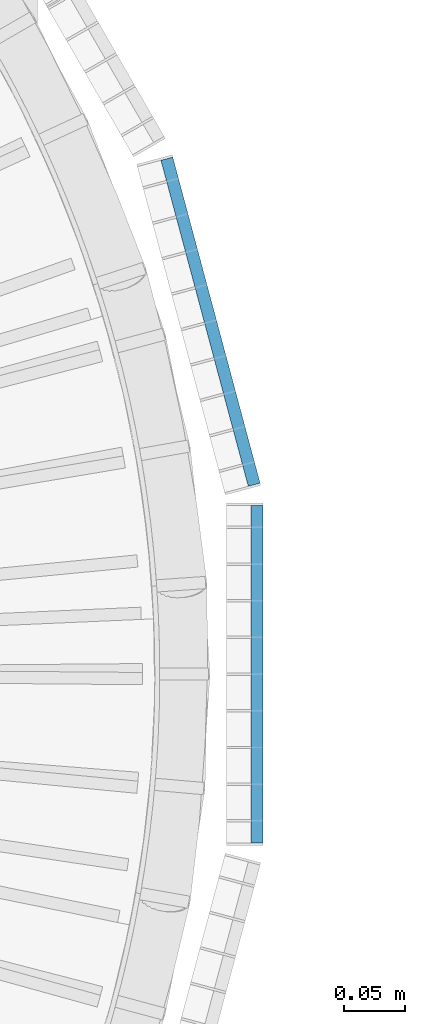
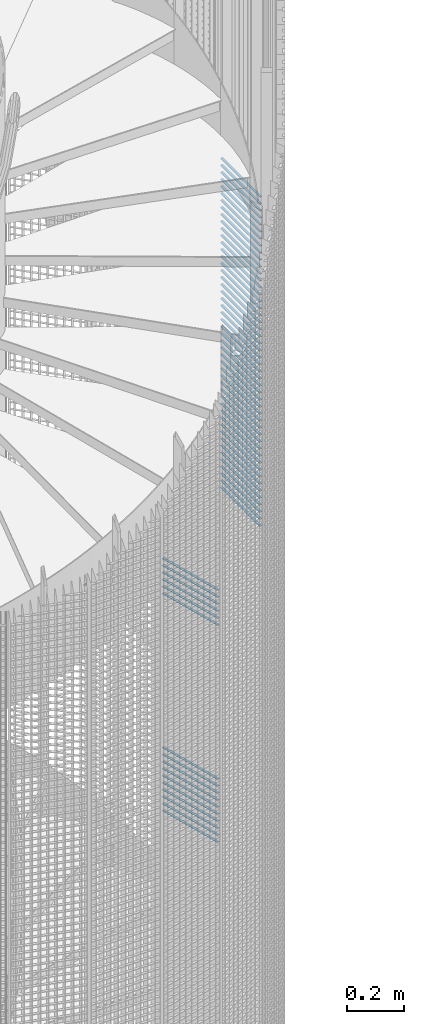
# One storey, part 302 of 1183: 64 beams, 2 elements without a shape of their own.
"""IFC2X3 building model written with IfcOpenShell, lengths in millimetres."""

from ifc_helpers import new_model, si_unit, frame, origin_with_axes, origin_2d_with_axis, place, context, subcontext, project, spatial, rectangle, extrude, material, type_object, element, aggregate, save


model = new_model("IFC2X3")

# Units and contexts
model_context = context("Model", 3, precision=1e-05, world=origin_with_axes())
body_context = subcontext(model_context, "Body", "Model", "MODEL_VIEW")
ifc_project = project(units=[si_unit("LENGTHUNIT", "METRE", prefix="MILLI"), si_unit("AREAUNIT", "SQUARE_METRE"), si_unit("VOLUMEUNIT", "CUBIC_METRE"), si_unit("MASSUNIT", "GRAM", prefix="KILO"), si_unit("TIMEUNIT", "SECOND"), si_unit("PLANEANGLEUNIT", "RADIAN"), si_unit("SOLIDANGLEUNIT", "STERADIAN"), si_unit("THERMODYNAMICTEMPERATUREUNIT", "DEGREE_CELSIUS"), si_unit("LUMINOUSINTENSITYUNIT", "LUMEN")], contexts=[model_context])

# Site, building, storey
site_placement = place(None, origin_with_axes())
site = spatial("IfcSite", under=ifc_project, at=site_placement, Name="Undefined", CompositionType="ELEMENT")
building_placement = place(site_placement, origin_with_axes())
building = spatial("IfcBuilding", under=site, at=building_placement, Name="Undefined", CompositionType="ELEMENT")
storey_placement = place(building_placement, origin_with_axes())
storey = spatial("IfcBuildingStorey", under=building, at=storey_placement, Name="Undefined", CompositionType="ELEMENT", Elevation=0.0)

# Assembly, beams
assembly_1_placement = place(storey_placement, origin_with_axes())
assembly_1 = element("IfcElementAssembly", 1, at=assembly_1_placement, inside=storey, Name="BORDURE", AssemblyPlace="NOTDEFINED", PredefinedType="NOTDEFINED")
ifc_material = material(Name="STEEL/S235JR")
beam_type = type_object("IfcBeamType", Name="PL2*10", PredefinedType="NOTDEFINED")
beam_1_placement = place(assembly_1_placement, frame((1111.25508286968, 154.895926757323, 3960.0), z_axis=(0.965925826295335, 0.258819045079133, 0.0), x_axis=(-0.258819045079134, 0.965925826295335, 0.0)))
beam_1 = element("IfcBeam", 2, at=beam_1_placement, type_object=beam_type, material=ifc_material, Name="ENTRETOISE", context=body_context, shape_type="SweptSolid", body=[
    extrude(rectangle(XDim=2.0, YDim=10.0, at=origin_2d_with_axis()), frame((275.999999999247, 9.09494701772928e-13, 1.53210777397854e-14), z_axis=(-1.0, 0.0, 0.0), x_axis=(0.0, -1.0, 0.0)), (0.0, 0.0, 1.0), 276.0),
])
beam_2_placement = place(assembly_1_placement, frame((1111.25508286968, 154.895926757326, 3300.0), z_axis=(0.965925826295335, 0.258819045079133, 0.0), x_axis=(-0.258819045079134, 0.965925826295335, 0.0)))
beam_2 = element("IfcBeam", 3, at=beam_2_placement, type_object=beam_type, material=ifc_material, Name="ENTRETOISE", context=body_context, shape_type="SweptSolid", body=[
    extrude(rectangle(XDim=2.0, YDim=10.0, at=origin_2d_with_axis()), frame((275.999999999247, 9.09494701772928e-13, 1.53210777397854e-14), z_axis=(-1.0, 0.0, 0.0), x_axis=(0.0, -1.0, 0.0)), (0.0, 0.0, 1.0), 276.0),
])
beam_3_placement = place(assembly_1_placement, frame((1111.25508286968, 154.895926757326, 3270.0), z_axis=(0.965925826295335, 0.258819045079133, 0.0), x_axis=(-0.258819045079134, 0.965925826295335, 0.0)))
beam_3 = element("IfcBeam", 4, at=beam_3_placement, type_object=beam_type, material=ifc_material, Name="ENTRETOISE", context=body_context, shape_type="SweptSolid", body=[
    extrude(rectangle(XDim=2.0, YDim=10.0, at=origin_2d_with_axis()), frame((275.999999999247, 9.09494701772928e-13, 1.53210777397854e-14), z_axis=(-1.0, 0.0, 0.0), x_axis=(0.0, -1.0, 0.0)), (0.0, 0.0, 1.0), 276.0),
])
beam_4_placement = place(assembly_1_placement, frame((1111.25508286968, 154.895926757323, 3990.0), z_axis=(0.965925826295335, 0.258819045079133, 0.0), x_axis=(-0.258819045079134, 0.965925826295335, 0.0)))
beam_4 = element("IfcBeam", 5, at=beam_4_placement, type_object=beam_type, material=ifc_material, Name="ENTRETOISE", context=body_context, shape_type="SweptSolid", body=[
    extrude(rectangle(XDim=2.0, YDim=10.0, at=origin_2d_with_axis()), frame((275.999999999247, 9.09494701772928e-13, 1.53210777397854e-14), z_axis=(-1.0, 0.0, 0.0), x_axis=(0.0, -1.0, 0.0)), (0.0, 0.0, 1.0), 276.0),
])
beam_5_placement = place(assembly_1_placement, frame((1111.25508286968, 154.895926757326, 3240.0), z_axis=(0.965925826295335, 0.258819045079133, 0.0), x_axis=(-0.258819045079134, 0.965925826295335, 0.0)))
beam_5 = element("IfcBeam", 6, at=beam_5_placement, type_object=beam_type, material=ifc_material, Name="ENTRETOISE", context=body_context, shape_type="SweptSolid", body=[
    extrude(rectangle(XDim=2.0, YDim=10.0, at=origin_2d_with_axis()), frame((275.999999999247, 9.09494701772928e-13, 1.53210777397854e-14), z_axis=(-1.0, 0.0, 0.0), x_axis=(0.0, -1.0, 0.0)), (0.0, 0.0, 1.0), 276.0),
])
beam_6_placement = place(assembly_1_placement, frame((1111.25508286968, 154.895926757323, 4020.0), z_axis=(0.965925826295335, 0.258819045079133, 0.0), x_axis=(-0.258819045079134, 0.965925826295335, 0.0)))
beam_6 = element("IfcBeam", 7, at=beam_6_placement, type_object=beam_type, material=ifc_material, Name="ENTRETOISE", context=body_context, shape_type="SweptSolid", body=[
    extrude(rectangle(XDim=2.0, YDim=10.0, at=origin_2d_with_axis()), frame((275.999999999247, 9.09494701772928e-13, 1.53210777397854e-14), z_axis=(-1.0, 0.0, 0.0), x_axis=(0.0, -1.0, 0.0)), (0.0, 0.0, 1.0), 276.0),
])
beam_7_placement = place(assembly_1_placement, frame((1111.25508286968, 154.895926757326, 3210.0), z_axis=(0.965925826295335, 0.258819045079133, 0.0), x_axis=(-0.258819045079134, 0.965925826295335, 0.0)))
beam_7 = element("IfcBeam", 8, at=beam_7_placement, type_object=beam_type, material=ifc_material, Name="ENTRETOISE", context=body_context, shape_type="SweptSolid", body=[
    extrude(rectangle(XDim=2.0, YDim=10.0, at=origin_2d_with_axis()), frame((275.999999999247, 9.09494701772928e-13, 1.53210777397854e-14), z_axis=(-1.0, 0.0, 0.0), x_axis=(0.0, -1.0, 0.0)), (0.0, 0.0, 1.0), 276.0),
])
beam_8_placement = place(assembly_1_placement, frame((1111.25508286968, 154.895926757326, 3180.0), z_axis=(0.965925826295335, 0.258819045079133, 0.0), x_axis=(-0.258819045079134, 0.965925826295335, 0.0)))
beam_8 = element("IfcBeam", 9, at=beam_8_placement, type_object=beam_type, material=ifc_material, Name="ENTRETOISE", context=body_context, shape_type="SweptSolid", body=[
    extrude(rectangle(XDim=2.0, YDim=10.0, at=origin_2d_with_axis()), frame((275.999999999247, 9.09494701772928e-13, 1.53210777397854e-14), z_axis=(-1.0, 0.0, 0.0), x_axis=(0.0, -1.0, 0.0)), (0.0, 0.0, 1.0), 276.0),
])
beam_9_placement = place(assembly_1_placement, frame((1111.25508286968, 154.895926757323, 4050.0), z_axis=(0.965925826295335, 0.258819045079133, 0.0), x_axis=(-0.258819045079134, 0.965925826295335, 0.0)))
beam_9 = element("IfcBeam", 10, at=beam_9_placement, type_object=beam_type, material=ifc_material, Name="ENTRETOISE", context=body_context, shape_type="SweptSolid", body=[
    extrude(rectangle(XDim=2.0, YDim=10.0, at=origin_2d_with_axis()), frame((275.999999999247, 9.09494701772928e-13, 1.53210777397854e-14), z_axis=(-1.0, 0.0, 0.0), x_axis=(0.0, -1.0, 0.0)), (0.0, 0.0, 1.0), 276.0),
])
beam_10_placement = place(assembly_1_placement, frame((1111.25508286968, 154.895926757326, 3150.0), z_axis=(0.965925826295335, 0.258819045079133, 0.0), x_axis=(-0.258819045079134, 0.965925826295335, 0.0)))
beam_10 = element("IfcBeam", 11, at=beam_10_placement, type_object=beam_type, material=ifc_material, Name="ENTRETOISE", context=body_context, shape_type="SweptSolid", body=[
    extrude(rectangle(XDim=2.0, YDim=10.0, at=origin_2d_with_axis()), frame((275.999999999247, 9.09494701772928e-13, 1.53210777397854e-14), z_axis=(-1.0, 0.0, 0.0), x_axis=(0.0, -1.0, 0.0)), (0.0, 0.0, 1.0), 276.0),
])
beam_11_placement = place(assembly_1_placement, frame((1111.25508286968, 154.895926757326, 3120.0), z_axis=(0.965925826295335, 0.258819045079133, 0.0), x_axis=(-0.258819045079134, 0.965925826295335, 0.0)))
beam_11 = element("IfcBeam", 12, at=beam_11_placement, type_object=beam_type, material=ifc_material, Name="ENTRETOISE", context=body_context, shape_type="SweptSolid", body=[
    extrude(rectangle(XDim=2.0, YDim=10.0, at=origin_2d_with_axis()), frame((275.999999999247, 9.09494701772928e-13, 1.53210777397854e-14), z_axis=(-1.0, 0.0, 0.0), x_axis=(0.0, -1.0, 0.0)), (0.0, 0.0, 1.0), 276.0),
])
beam_12_placement = place(assembly_1_placement, frame((1111.25508286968, 154.895926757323, 4080.0), z_axis=(0.965925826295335, 0.258819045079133, 0.0), x_axis=(-0.258819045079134, 0.965925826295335, 0.0)))
beam_12 = element("IfcBeam", 13, at=beam_12_placement, type_object=beam_type, material=ifc_material, Name="ENTRETOISE", context=body_context, shape_type="SweptSolid", body=[
    extrude(rectangle(XDim=2.0, YDim=10.0, at=origin_2d_with_axis()), frame((275.999999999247, 9.09494701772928e-13, 1.53210777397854e-14), z_axis=(-1.0, 0.0, 0.0), x_axis=(0.0, -1.0, 0.0)), (0.0, 0.0, 1.0), 276.0),
])
beam_13_placement = place(assembly_1_placement, frame((1111.25508286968, 154.895926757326, 3090.0), z_axis=(0.965925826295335, 0.258819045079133, 0.0), x_axis=(-0.258819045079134, 0.965925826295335, 0.0)))
beam_13 = element("IfcBeam", 14, at=beam_13_placement, type_object=beam_type, material=ifc_material, Name="ENTRETOISE", context=body_context, shape_type="SweptSolid", body=[
    extrude(rectangle(XDim=2.0, YDim=10.0, at=origin_2d_with_axis()), frame((275.999999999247, 9.09494701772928e-13, 1.53210777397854e-14), z_axis=(-1.0, 0.0, 0.0), x_axis=(0.0, -1.0, 0.0)), (0.0, 0.0, 1.0), 276.0),
])
beam_14_placement = place(assembly_1_placement, frame((1111.25508286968, 154.895926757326, 3060.0), z_axis=(0.965925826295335, 0.258819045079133, 0.0), x_axis=(-0.258819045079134, 0.965925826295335, 0.0)))
beam_14 = element("IfcBeam", 15, at=beam_14_placement, type_object=beam_type, material=ifc_material, Name="ENTRETOISE", context=body_context, shape_type="SweptSolid", body=[
    extrude(rectangle(XDim=2.0, YDim=10.0, at=origin_2d_with_axis()), frame((275.999999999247, 9.09494701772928e-13, 1.53210777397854e-14), z_axis=(-1.0, 0.0, 0.0), x_axis=(0.0, -1.0, 0.0)), (0.0, 0.0, 1.0), 276.0),
])
beam_15_placement = place(assembly_1_placement, frame((1111.25508286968, 154.895926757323, 4110.0), z_axis=(0.965925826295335, 0.258819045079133, 0.0), x_axis=(-0.258819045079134, 0.965925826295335, 0.0)))
beam_15 = element("IfcBeam", 16, at=beam_15_placement, type_object=beam_type, material=ifc_material, Name="ENTRETOISE", context=body_context, shape_type="SweptSolid", body=[
    extrude(rectangle(XDim=2.0, YDim=10.0, at=origin_2d_with_axis()), frame((275.999999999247, 9.09494701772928e-13, 1.53210777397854e-14), z_axis=(-1.0, 0.0, 0.0), x_axis=(0.0, -1.0, 0.0)), (0.0, 0.0, 1.0), 276.0),
])
beam_16_placement = place(assembly_1_placement, frame((1111.25508286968, 154.895926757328, 3030.0), z_axis=(0.965925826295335, 0.258819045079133, 0.0), x_axis=(-0.258819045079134, 0.965925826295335, 0.0)))
beam_16 = element("IfcBeam", 17, at=beam_16_placement, type_object=beam_type, material=ifc_material, Name="ENTRETOISE", context=body_context, shape_type="SweptSolid", body=[
    extrude(rectangle(XDim=2.0, YDim=10.0, at=origin_2d_with_axis()), frame((275.999999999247, 9.09494701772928e-13, 1.53210777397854e-14), z_axis=(-1.0, 0.0, 0.0), x_axis=(0.0, -1.0, 0.0)), (0.0, 0.0, 1.0), 276.0),
])
aggregate(assembly_1, [beam_1, beam_2, beam_3, beam_4, beam_5, beam_6, beam_7, beam_8, beam_9, beam_10, beam_11, beam_12, beam_13, beam_14, beam_15, beam_16])

assembly_2_placement = place(storey_placement, origin_with_axes())
assembly_2 = element("IfcElementAssembly", 18, at=assembly_2_placement, inside=storey, Name="BORDURE", AssemblyPlace="NOTDEFINED", PredefinedType="NOTDEFINED")
beam_17_placement = place(assembly_2_placement, frame((1113.47999999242, -137.996003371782, 5970.0), z_axis=(1.0, 0.0, 0.0), x_axis=(0.0, 1.0, 0.0)))
beam_17 = element("IfcBeam", 19, at=beam_17_placement, type_object=beam_type, material=ifc_material, Name="ENTRETOISE", context=body_context, shape_type="SweptSolid", body=[
    extrude(rectangle(XDim=2.0, YDim=10.0, at=origin_2d_with_axis()), frame((275.999999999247, 9.09494701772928e-13, 1.53210777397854e-14), z_axis=(-1.0, 0.0, 0.0), x_axis=(0.0, -1.0, 0.0)), (0.0, 0.0, 1.0), 276.0),
])
beam_18_placement = place(assembly_2_placement, frame((1113.47999999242, -137.996003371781, 5940.0), z_axis=(1.0, 0.0, 0.0), x_axis=(0.0, 1.0, 0.0)))
beam_18 = element("IfcBeam", 20, at=beam_18_placement, type_object=beam_type, material=ifc_material, Name="ENTRETOISE", context=body_context, shape_type="SweptSolid", body=[
    extrude(rectangle(XDim=2.0, YDim=10.0, at=origin_2d_with_axis()), frame((275.999999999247, 9.09494701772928e-13, 1.53210777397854e-14), z_axis=(-1.0, 0.0, 0.0), x_axis=(0.0, -1.0, 0.0)), (0.0, 0.0, 1.0), 276.0),
])
beam_19_placement = place(assembly_2_placement, frame((1113.47999999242, -137.996003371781, 5910.0), z_axis=(1.0, 0.0, 0.0), x_axis=(0.0, 1.0, 0.0)))
beam_19 = element("IfcBeam", 21, at=beam_19_placement, type_object=beam_type, material=ifc_material, Name="ENTRETOISE", context=body_context, shape_type="SweptSolid", body=[
    extrude(rectangle(XDim=2.0, YDim=10.0, at=origin_2d_with_axis()), frame((275.999999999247, 9.09494701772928e-13, 1.53210777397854e-14), z_axis=(-1.0, 0.0, 0.0), x_axis=(0.0, -1.0, 0.0)), (0.0, 0.0, 1.0), 276.0),
])
beam_20_placement = place(assembly_2_placement, frame((1113.47999999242, -137.996003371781, 5880.0), z_axis=(1.0, 0.0, 0.0), x_axis=(0.0, 1.0, 0.0)))
beam_20 = element("IfcBeam", 22, at=beam_20_placement, type_object=beam_type, material=ifc_material, Name="ENTRETOISE", context=body_context, shape_type="SweptSolid", body=[
    extrude(rectangle(XDim=2.0, YDim=10.0, at=origin_2d_with_axis()), frame((275.999999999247, 9.09494701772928e-13, 1.53210777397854e-14), z_axis=(-1.0, 0.0, 0.0), x_axis=(0.0, -1.0, 0.0)), (0.0, 0.0, 1.0), 276.0),
])
beam_21_placement = place(assembly_2_placement, frame((1113.47999999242, -137.996003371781, 5850.0), z_axis=(1.0, 0.0, 0.0), x_axis=(0.0, 1.0, 0.0)))
beam_21 = element("IfcBeam", 23, at=beam_21_placement, type_object=beam_type, material=ifc_material, Name="ENTRETOISE", context=body_context, shape_type="SweptSolid", body=[
    extrude(rectangle(XDim=2.0, YDim=10.0, at=origin_2d_with_axis()), frame((275.999999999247, 9.09494701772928e-13, 1.53210777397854e-14), z_axis=(-1.0, 0.0, 0.0), x_axis=(0.0, -1.0, 0.0)), (0.0, 0.0, 1.0), 276.0),
])
beam_22_placement = place(assembly_2_placement, frame((1113.47999999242, -137.996003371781, 5820.0), z_axis=(1.0, 0.0, 0.0), x_axis=(0.0, 1.0, 0.0)))
beam_22 = element("IfcBeam", 24, at=beam_22_placement, type_object=beam_type, material=ifc_material, Name="ENTRETOISE", context=body_context, shape_type="SweptSolid", body=[
    extrude(rectangle(XDim=2.0, YDim=10.0, at=origin_2d_with_axis()), frame((275.999999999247, 9.09494701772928e-13, 1.53210777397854e-14), z_axis=(-1.0, 0.0, 0.0), x_axis=(0.0, -1.0, 0.0)), (0.0, 0.0, 1.0), 276.0),
])
beam_23_placement = place(assembly_2_placement, frame((1113.47999999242, -137.996003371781, 5790.0), z_axis=(1.0, 0.0, 0.0), x_axis=(0.0, 1.0, 0.0)))
beam_23 = element("IfcBeam", 25, at=beam_23_placement, type_object=beam_type, material=ifc_material, Name="ENTRETOISE", context=body_context, shape_type="SweptSolid", body=[
    extrude(rectangle(XDim=2.0, YDim=10.0, at=origin_2d_with_axis()), frame((275.999999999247, 9.09494701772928e-13, 1.53210777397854e-14), z_axis=(-1.0, 0.0, 0.0), x_axis=(0.0, -1.0, 0.0)), (0.0, 0.0, 1.0), 276.0),
])
beam_24_placement = place(assembly_2_placement, frame((1113.47999999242, -137.996003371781, 5760.0), z_axis=(1.0, 0.0, 0.0), x_axis=(0.0, 1.0, 0.0)))
beam_24 = element("IfcBeam", 26, at=beam_24_placement, type_object=beam_type, material=ifc_material, Name="ENTRETOISE", context=body_context, shape_type="SweptSolid", body=[
    extrude(rectangle(XDim=2.0, YDim=10.0, at=origin_2d_with_axis()), frame((275.999999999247, 9.09494701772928e-13, 1.53210777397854e-14), z_axis=(-1.0, 0.0, 0.0), x_axis=(0.0, -1.0, 0.0)), (0.0, 0.0, 1.0), 276.0),
])
beam_25_placement = place(assembly_2_placement, frame((1113.47999999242, -137.996003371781, 5730.0), z_axis=(1.0, 0.0, 0.0), x_axis=(0.0, 1.0, 0.0)))
beam_25 = element("IfcBeam", 27, at=beam_25_placement, type_object=beam_type, material=ifc_material, Name="ENTRETOISE", context=body_context, shape_type="SweptSolid", body=[
    extrude(rectangle(XDim=2.0, YDim=10.0, at=origin_2d_with_axis()), frame((275.999999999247, 9.09494701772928e-13, 1.53210777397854e-14), z_axis=(-1.0, 0.0, 0.0), x_axis=(0.0, -1.0, 0.0)), (0.0, 0.0, 1.0), 276.0),
])
beam_26_placement = place(assembly_2_placement, frame((1113.47999999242, -137.996003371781, 5700.0), z_axis=(1.0, 0.0, 0.0), x_axis=(0.0, 1.0, 0.0)))
beam_26 = element("IfcBeam", 28, at=beam_26_placement, type_object=beam_type, material=ifc_material, Name="ENTRETOISE", context=body_context, shape_type="SweptSolid", body=[
    extrude(rectangle(XDim=2.0, YDim=10.0, at=origin_2d_with_axis()), frame((275.999999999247, 9.09494701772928e-13, 1.53210777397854e-14), z_axis=(-1.0, 0.0, 0.0), x_axis=(0.0, -1.0, 0.0)), (0.0, 0.0, 1.0), 276.0),
])
beam_27_placement = place(assembly_2_placement, frame((1113.47999999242, -137.996003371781, 5670.0), z_axis=(1.0, 0.0, 0.0), x_axis=(0.0, 1.0, 0.0)))
beam_27 = element("IfcBeam", 29, at=beam_27_placement, type_object=beam_type, material=ifc_material, Name="ENTRETOISE", context=body_context, shape_type="SweptSolid", body=[
    extrude(rectangle(XDim=2.0, YDim=10.0, at=origin_2d_with_axis()), frame((275.999999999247, 9.09494701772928e-13, 1.53210777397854e-14), z_axis=(-1.0, 0.0, 0.0), x_axis=(0.0, -1.0, 0.0)), (0.0, 0.0, 1.0), 276.0),
])
beam_28_placement = place(assembly_2_placement, frame((1113.47999999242, -137.99600337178, 5640.0), z_axis=(1.0, 0.0, 0.0), x_axis=(0.0, 1.0, 0.0)))
beam_28 = element("IfcBeam", 30, at=beam_28_placement, type_object=beam_type, material=ifc_material, Name="ENTRETOISE", context=body_context, shape_type="SweptSolid", body=[
    extrude(rectangle(XDim=2.0, YDim=10.0, at=origin_2d_with_axis()), frame((275.999999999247, 9.09494701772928e-13, 1.53210777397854e-14), z_axis=(-1.0, 0.0, 0.0), x_axis=(0.0, -1.0, 0.0)), (0.0, 0.0, 1.0), 276.0),
])
beam_29_placement = place(assembly_2_placement, frame((1113.47999999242, -137.99600337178, 5610.0), z_axis=(1.0, 0.0, 0.0), x_axis=(0.0, 1.0, 0.0)))
beam_29 = element("IfcBeam", 31, at=beam_29_placement, type_object=beam_type, material=ifc_material, Name="ENTRETOISE", context=body_context, shape_type="SweptSolid", body=[
    extrude(rectangle(XDim=2.0, YDim=10.0, at=origin_2d_with_axis()), frame((275.999999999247, 9.09494701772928e-13, 1.53210777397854e-14), z_axis=(-1.0, 0.0, 0.0), x_axis=(0.0, -1.0, 0.0)), (0.0, 0.0, 1.0), 276.0),
])
beam_30_placement = place(assembly_2_placement, frame((1113.47999999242, -137.99600337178, 5580.0), z_axis=(1.0, 0.0, 0.0), x_axis=(0.0, 1.0, 0.0)))
beam_30 = element("IfcBeam", 32, at=beam_30_placement, type_object=beam_type, material=ifc_material, Name="ENTRETOISE", context=body_context, shape_type="SweptSolid", body=[
    extrude(rectangle(XDim=2.0, YDim=10.0, at=origin_2d_with_axis()), frame((275.999999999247, 9.09494701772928e-13, 1.53210777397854e-14), z_axis=(-1.0, 0.0, 0.0), x_axis=(0.0, -1.0, 0.0)), (0.0, 0.0, 1.0), 276.0),
])
beam_31_placement = place(assembly_2_placement, frame((1113.47999999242, -137.99600337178, 5550.0), z_axis=(1.0, 0.0, 0.0), x_axis=(0.0, 1.0, 0.0)))
beam_31 = element("IfcBeam", 33, at=beam_31_placement, type_object=beam_type, material=ifc_material, Name="ENTRETOISE", context=body_context, shape_type="SweptSolid", body=[
    extrude(rectangle(XDim=2.0, YDim=10.0, at=origin_2d_with_axis()), frame((275.999999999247, 9.09494701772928e-13, 1.53210777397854e-14), z_axis=(-1.0, 0.0, 0.0), x_axis=(0.0, -1.0, 0.0)), (0.0, 0.0, 1.0), 276.0),
])
beam_32_placement = place(assembly_2_placement, frame((1113.47999999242, -137.99600337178, 5520.0), z_axis=(1.0, 0.0, 0.0), x_axis=(0.0, 1.0, 0.0)))
beam_32 = element("IfcBeam", 34, at=beam_32_placement, type_object=beam_type, material=ifc_material, Name="ENTRETOISE", context=body_context, shape_type="SweptSolid", body=[
    extrude(rectangle(XDim=2.0, YDim=10.0, at=origin_2d_with_axis()), frame((275.999999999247, 9.09494701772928e-13, 1.53210777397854e-14), z_axis=(-1.0, 0.0, 0.0), x_axis=(0.0, -1.0, 0.0)), (0.0, 0.0, 1.0), 276.0),
])
beam_33_placement = place(assembly_2_placement, frame((1113.47999999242, -137.99600337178, 5490.0), z_axis=(1.0, 0.0, 0.0), x_axis=(0.0, 1.0, 0.0)))
beam_33 = element("IfcBeam", 35, at=beam_33_placement, type_object=beam_type, material=ifc_material, Name="ENTRETOISE", context=body_context, shape_type="SweptSolid", body=[
    extrude(rectangle(XDim=2.0, YDim=10.0, at=origin_2d_with_axis()), frame((275.999999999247, 9.09494701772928e-13, 1.53210777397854e-14), z_axis=(-1.0, 0.0, 0.0), x_axis=(0.0, -1.0, 0.0)), (0.0, 0.0, 1.0), 276.0),
])
beam_34_placement = place(assembly_2_placement, frame((1113.47999999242, -137.99600337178, 5460.0), z_axis=(1.0, 0.0, 0.0), x_axis=(0.0, 1.0, 0.0)))
beam_34 = element("IfcBeam", 36, at=beam_34_placement, type_object=beam_type, material=ifc_material, Name="ENTRETOISE", context=body_context, shape_type="SweptSolid", body=[
    extrude(rectangle(XDim=2.0, YDim=10.0, at=origin_2d_with_axis()), frame((275.999999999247, 9.09494701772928e-13, 1.53210777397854e-14), z_axis=(-1.0, 0.0, 0.0), x_axis=(0.0, -1.0, 0.0)), (0.0, 0.0, 1.0), 276.0),
])
beam_35_placement = place(assembly_2_placement, frame((1113.47999999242, -137.99600337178, 5430.0), z_axis=(1.0, 0.0, 0.0), x_axis=(0.0, 1.0, 0.0)))
beam_35 = element("IfcBeam", 37, at=beam_35_placement, type_object=beam_type, material=ifc_material, Name="ENTRETOISE", context=body_context, shape_type="SweptSolid", body=[
    extrude(rectangle(XDim=2.0, YDim=10.0, at=origin_2d_with_axis()), frame((275.999999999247, 9.09494701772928e-13, 1.53210777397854e-14), z_axis=(-1.0, 0.0, 0.0), x_axis=(0.0, -1.0, 0.0)), (0.0, 0.0, 1.0), 276.0),
])
beam_36_placement = place(assembly_2_placement, frame((1113.47999999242, -137.996003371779, 5400.0), z_axis=(1.0, 0.0, 0.0), x_axis=(0.0, 1.0, 0.0)))
beam_36 = element("IfcBeam", 38, at=beam_36_placement, type_object=beam_type, material=ifc_material, Name="ENTRETOISE", context=body_context, shape_type="SweptSolid", body=[
    extrude(rectangle(XDim=2.0, YDim=10.0, at=origin_2d_with_axis()), frame((275.999999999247, 9.09494701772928e-13, 1.53210777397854e-14), z_axis=(-1.0, 0.0, 0.0), x_axis=(0.0, -1.0, 0.0)), (0.0, 0.0, 1.0), 276.0),
])
beam_37_placement = place(assembly_2_placement, frame((1113.47999999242, -137.996003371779, 5370.0), z_axis=(1.0, 0.0, 0.0), x_axis=(0.0, 1.0, 0.0)))
beam_37 = element("IfcBeam", 39, at=beam_37_placement, type_object=beam_type, material=ifc_material, Name="ENTRETOISE", context=body_context, shape_type="SweptSolid", body=[
    extrude(rectangle(XDim=2.0, YDim=10.0, at=origin_2d_with_axis()), frame((275.999999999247, 9.09494701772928e-13, 1.53210777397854e-14), z_axis=(-1.0, 0.0, 0.0), x_axis=(0.0, -1.0, 0.0)), (0.0, 0.0, 1.0), 276.0),
])
beam_38_placement = place(assembly_2_placement, frame((1113.47999999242, -137.996003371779, 5340.0), z_axis=(1.0, 0.0, 0.0), x_axis=(0.0, 1.0, 0.0)))
beam_38 = element("IfcBeam", 40, at=beam_38_placement, type_object=beam_type, material=ifc_material, Name="ENTRETOISE", context=body_context, shape_type="SweptSolid", body=[
    extrude(rectangle(XDim=2.0, YDim=10.0, at=origin_2d_with_axis()), frame((275.999999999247, 9.09494701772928e-13, 1.53210777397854e-14), z_axis=(-1.0, 0.0, 0.0), x_axis=(0.0, -1.0, 0.0)), (0.0, 0.0, 1.0), 276.0),
])
beam_39_placement = place(assembly_2_placement, frame((1113.47999999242, -137.996003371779, 5310.0), z_axis=(1.0, 0.0, 0.0), x_axis=(0.0, 1.0, 0.0)))
beam_39 = element("IfcBeam", 41, at=beam_39_placement, type_object=beam_type, material=ifc_material, Name="ENTRETOISE", context=body_context, shape_type="SweptSolid", body=[
    extrude(rectangle(XDim=2.0, YDim=10.0, at=origin_2d_with_axis()), frame((275.999999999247, 9.09494701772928e-13, 1.53210777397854e-14), z_axis=(-1.0, 0.0, 0.0), x_axis=(0.0, -1.0, 0.0)), (0.0, 0.0, 1.0), 276.0),
])
beam_40_placement = place(assembly_2_placement, frame((1113.47999999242, -137.996003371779, 5280.0), z_axis=(1.0, 0.0, 0.0), x_axis=(0.0, 1.0, 0.0)))
beam_40 = element("IfcBeam", 42, at=beam_40_placement, type_object=beam_type, material=ifc_material, Name="ENTRETOISE", context=body_context, shape_type="SweptSolid", body=[
    extrude(rectangle(XDim=2.0, YDim=10.0, at=origin_2d_with_axis()), frame((275.999999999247, 9.09494701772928e-13, 1.53210777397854e-14), z_axis=(-1.0, 0.0, 0.0), x_axis=(0.0, -1.0, 0.0)), (0.0, 0.0, 1.0), 276.0),
])
beam_41_placement = place(assembly_2_placement, frame((1113.47999999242, -137.996003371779, 5250.0), z_axis=(1.0, 0.0, 0.0), x_axis=(0.0, 1.0, 0.0)))
beam_41 = element("IfcBeam", 43, at=beam_41_placement, type_object=beam_type, material=ifc_material, Name="ENTRETOISE", context=body_context, shape_type="SweptSolid", body=[
    extrude(rectangle(XDim=2.0, YDim=10.0, at=origin_2d_with_axis()), frame((275.999999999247, 9.09494701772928e-13, 1.53210777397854e-14), z_axis=(-1.0, 0.0, 0.0), x_axis=(0.0, -1.0, 0.0)), (0.0, 0.0, 1.0), 276.0),
])
beam_42_placement = place(assembly_2_placement, frame((1113.47999999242, -137.996003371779, 5220.0), z_axis=(1.0, 0.0, 0.0), x_axis=(0.0, 1.0, 0.0)))
beam_42 = element("IfcBeam", 44, at=beam_42_placement, type_object=beam_type, material=ifc_material, Name="ENTRETOISE", context=body_context, shape_type="SweptSolid", body=[
    extrude(rectangle(XDim=2.0, YDim=10.0, at=origin_2d_with_axis()), frame((275.999999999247, 9.09494701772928e-13, 1.53210777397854e-14), z_axis=(-1.0, 0.0, 0.0), x_axis=(0.0, -1.0, 0.0)), (0.0, 0.0, 1.0), 276.0),
])
beam_43_placement = place(assembly_2_placement, frame((1113.47999999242, -137.996003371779, 5190.0), z_axis=(1.0, 0.0, 0.0), x_axis=(0.0, 1.0, 0.0)))
beam_43 = element("IfcBeam", 45, at=beam_43_placement, type_object=beam_type, material=ifc_material, Name="ENTRETOISE", context=body_context, shape_type="SweptSolid", body=[
    extrude(rectangle(XDim=2.0, YDim=10.0, at=origin_2d_with_axis()), frame((275.999999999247, 9.09494701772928e-13, 1.53210777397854e-14), z_axis=(-1.0, 0.0, 0.0), x_axis=(0.0, -1.0, 0.0)), (0.0, 0.0, 1.0), 276.0),
])
beam_44_placement = place(assembly_2_placement, frame((1113.47999999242, -137.996003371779, 5160.0), z_axis=(1.0, 0.0, 0.0), x_axis=(0.0, 1.0, 0.0)))
beam_44 = element("IfcBeam", 46, at=beam_44_placement, type_object=beam_type, material=ifc_material, Name="ENTRETOISE", context=body_context, shape_type="SweptSolid", body=[
    extrude(rectangle(XDim=2.0, YDim=10.0, at=origin_2d_with_axis()), frame((275.999999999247, 9.09494701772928e-13, 1.53210777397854e-14), z_axis=(-1.0, 0.0, 0.0), x_axis=(0.0, -1.0, 0.0)), (0.0, 0.0, 1.0), 276.0),
])
beam_45_placement = place(assembly_2_placement, frame((1113.47999999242, -137.996003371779, 5130.0), z_axis=(1.0, 0.0, 0.0), x_axis=(0.0, 1.0, 0.0)))
beam_45 = element("IfcBeam", 47, at=beam_45_placement, type_object=beam_type, material=ifc_material, Name="ENTRETOISE", context=body_context, shape_type="SweptSolid", body=[
    extrude(rectangle(XDim=2.0, YDim=10.0, at=origin_2d_with_axis()), frame((275.999999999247, 9.09494701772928e-13, 1.53210777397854e-14), z_axis=(-1.0, 0.0, 0.0), x_axis=(0.0, -1.0, 0.0)), (0.0, 0.0, 1.0), 276.0),
])
beam_46_placement = place(assembly_2_placement, frame((1113.47999999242, -137.996003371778, 5100.0), z_axis=(1.0, 0.0, 0.0), x_axis=(0.0, 1.0, 0.0)))
beam_46 = element("IfcBeam", 48, at=beam_46_placement, type_object=beam_type, material=ifc_material, Name="ENTRETOISE", context=body_context, shape_type="SweptSolid", body=[
    extrude(rectangle(XDim=2.0, YDim=10.0, at=origin_2d_with_axis()), frame((275.999999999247, 9.09494701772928e-13, 1.53210777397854e-14), z_axis=(-1.0, 0.0, 0.0), x_axis=(0.0, -1.0, 0.0)), (0.0, 0.0, 1.0), 276.0),
])
beam_47_placement = place(assembly_2_placement, frame((1113.47999999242, -137.996003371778, 5070.0), z_axis=(1.0, 0.0, 0.0), x_axis=(0.0, 1.0, 0.0)))
beam_47 = element("IfcBeam", 49, at=beam_47_placement, type_object=beam_type, material=ifc_material, Name="ENTRETOISE", context=body_context, shape_type="SweptSolid", body=[
    extrude(rectangle(XDim=2.0, YDim=10.0, at=origin_2d_with_axis()), frame((275.999999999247, 9.09494701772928e-13, 1.53210777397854e-14), z_axis=(-1.0, 0.0, 0.0), x_axis=(0.0, -1.0, 0.0)), (0.0, 0.0, 1.0), 276.0),
])
beam_48_placement = place(assembly_2_placement, frame((1113.47999999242, -137.996003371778, 5040.0), z_axis=(1.0, 0.0, 0.0), x_axis=(0.0, 1.0, 0.0)))
beam_48 = element("IfcBeam", 50, at=beam_48_placement, type_object=beam_type, material=ifc_material, Name="ENTRETOISE", context=body_context, shape_type="SweptSolid", body=[
    extrude(rectangle(XDim=2.0, YDim=10.0, at=origin_2d_with_axis()), frame((275.999999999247, 9.09494701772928e-13, 1.53210777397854e-14), z_axis=(-1.0, 0.0, 0.0), x_axis=(0.0, -1.0, 0.0)), (0.0, 0.0, 1.0), 276.0),
])
beam_49_placement = place(assembly_2_placement, frame((1113.47999999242, -137.996003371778, 5010.0), z_axis=(1.0, 0.0, 0.0), x_axis=(0.0, 1.0, 0.0)))
beam_49 = element("IfcBeam", 51, at=beam_49_placement, type_object=beam_type, material=ifc_material, Name="ENTRETOISE", context=body_context, shape_type="SweptSolid", body=[
    extrude(rectangle(XDim=2.0, YDim=10.0, at=origin_2d_with_axis()), frame((275.999999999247, 9.09494701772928e-13, 1.53210777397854e-14), z_axis=(-1.0, 0.0, 0.0), x_axis=(0.0, -1.0, 0.0)), (0.0, 0.0, 1.0), 276.0),
])
beam_50_placement = place(assembly_2_placement, frame((1113.47999999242, -137.996003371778, 4980.0), z_axis=(1.0, 0.0, 0.0), x_axis=(0.0, 1.0, 0.0)))
beam_50 = element("IfcBeam", 52, at=beam_50_placement, type_object=beam_type, material=ifc_material, Name="ENTRETOISE", context=body_context, shape_type="SweptSolid", body=[
    extrude(rectangle(XDim=2.0, YDim=10.0, at=origin_2d_with_axis()), frame((275.999999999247, 9.09494701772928e-13, 1.53210777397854e-14), z_axis=(-1.0, 0.0, 0.0), x_axis=(0.0, -1.0, 0.0)), (0.0, 0.0, 1.0), 276.0),
])
beam_51_placement = place(assembly_2_placement, frame((1113.47999999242, -137.996003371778, 4950.0), z_axis=(1.0, 0.0, 0.0), x_axis=(0.0, 1.0, 0.0)))
beam_51 = element("IfcBeam", 53, at=beam_51_placement, type_object=beam_type, material=ifc_material, Name="ENTRETOISE", context=body_context, shape_type="SweptSolid", body=[
    extrude(rectangle(XDim=2.0, YDim=10.0, at=origin_2d_with_axis()), frame((275.999999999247, 9.09494701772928e-13, 1.53210777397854e-14), z_axis=(-1.0, 0.0, 0.0), x_axis=(0.0, -1.0, 0.0)), (0.0, 0.0, 1.0), 276.0),
])
beam_52_placement = place(assembly_2_placement, frame((1113.47999999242, -137.996003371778, 4920.0), z_axis=(1.0, 0.0, 0.0), x_axis=(0.0, 1.0, 0.0)))
beam_52 = element("IfcBeam", 54, at=beam_52_placement, type_object=beam_type, material=ifc_material, Name="ENTRETOISE", context=body_context, shape_type="SweptSolid", body=[
    extrude(rectangle(XDim=2.0, YDim=10.0, at=origin_2d_with_axis()), frame((275.999999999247, 9.09494701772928e-13, 1.53210777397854e-14), z_axis=(-1.0, 0.0, 0.0), x_axis=(0.0, -1.0, 0.0)), (0.0, 0.0, 1.0), 276.0),
])
beam_53_placement = place(assembly_2_placement, frame((1113.47999999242, -137.996003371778, 4890.0), z_axis=(1.0, 0.0, 0.0), x_axis=(0.0, 1.0, 0.0)))
beam_53 = element("IfcBeam", 55, at=beam_53_placement, type_object=beam_type, material=ifc_material, Name="ENTRETOISE", context=body_context, shape_type="SweptSolid", body=[
    extrude(rectangle(XDim=2.0, YDim=10.0, at=origin_2d_with_axis()), frame((275.999999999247, 9.09494701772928e-13, 1.53210777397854e-14), z_axis=(-1.0, 0.0, 0.0), x_axis=(0.0, -1.0, 0.0)), (0.0, 0.0, 1.0), 276.0),
])
beam_54_placement = place(assembly_2_placement, frame((1113.47999999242, -137.996003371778, 4860.0), z_axis=(1.0, 0.0, 0.0), x_axis=(0.0, 1.0, 0.0)))
beam_54 = element("IfcBeam", 56, at=beam_54_placement, type_object=beam_type, material=ifc_material, Name="ENTRETOISE", context=body_context, shape_type="SweptSolid", body=[
    extrude(rectangle(XDim=2.0, YDim=10.0, at=origin_2d_with_axis()), frame((275.999999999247, 9.09494701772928e-13, 1.53210777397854e-14), z_axis=(-1.0, 0.0, 0.0), x_axis=(0.0, -1.0, 0.0)), (0.0, 0.0, 1.0), 276.0),
])
beam_55_placement = place(assembly_2_placement, frame((1113.47999999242, -137.996003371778, 4830.0), z_axis=(1.0, 0.0, 0.0), x_axis=(0.0, 1.0, 0.0)))
beam_55 = element("IfcBeam", 57, at=beam_55_placement, type_object=beam_type, material=ifc_material, Name="ENTRETOISE", context=body_context, shape_type="SweptSolid", body=[
    extrude(rectangle(XDim=2.0, YDim=10.0, at=origin_2d_with_axis()), frame((275.999999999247, 9.09494701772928e-13, 1.53210777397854e-14), z_axis=(-1.0, 0.0, 0.0), x_axis=(0.0, -1.0, 0.0)), (0.0, 0.0, 1.0), 276.0),
])
beam_56_placement = place(assembly_2_placement, frame((1113.47999999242, -137.996003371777, 4800.0), z_axis=(1.0, 0.0, 0.0), x_axis=(0.0, 1.0, 0.0)))
beam_56 = element("IfcBeam", 58, at=beam_56_placement, type_object=beam_type, material=ifc_material, Name="ENTRETOISE", context=body_context, shape_type="SweptSolid", body=[
    extrude(rectangle(XDim=2.0, YDim=10.0, at=origin_2d_with_axis()), frame((275.999999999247, 9.09494701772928e-13, 1.53210777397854e-14), z_axis=(-1.0, 0.0, 0.0), x_axis=(0.0, -1.0, 0.0)), (0.0, 0.0, 1.0), 276.0),
])
beam_57_placement = place(assembly_2_placement, frame((1113.47999999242, -137.996003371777, 4770.0), z_axis=(1.0, 0.0, 0.0), x_axis=(0.0, 1.0, 0.0)))
beam_57 = element("IfcBeam", 59, at=beam_57_placement, type_object=beam_type, material=ifc_material, Name="ENTRETOISE", context=body_context, shape_type="SweptSolid", body=[
    extrude(rectangle(XDim=2.0, YDim=10.0, at=origin_2d_with_axis()), frame((275.999999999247, 9.09494701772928e-13, 1.53210777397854e-14), z_axis=(-1.0, 0.0, 0.0), x_axis=(0.0, -1.0, 0.0)), (0.0, 0.0, 1.0), 276.0),
])
beam_58_placement = place(assembly_2_placement, frame((1113.47999999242, -137.996003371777, 4740.0), z_axis=(1.0, 0.0, 0.0), x_axis=(0.0, 1.0, 0.0)))
beam_58 = element("IfcBeam", 60, at=beam_58_placement, type_object=beam_type, material=ifc_material, Name="ENTRETOISE", context=body_context, shape_type="SweptSolid", body=[
    extrude(rectangle(XDim=2.0, YDim=10.0, at=origin_2d_with_axis()), frame((275.999999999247, 9.09494701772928e-13, 1.53210777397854e-14), z_axis=(-1.0, 0.0, 0.0), x_axis=(0.0, -1.0, 0.0)), (0.0, 0.0, 1.0), 276.0),
])
beam_59_placement = place(assembly_2_placement, frame((1113.47999999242, -137.996003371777, 4710.0), z_axis=(1.0, 0.0, 0.0), x_axis=(0.0, 1.0, 0.0)))
beam_59 = element("IfcBeam", 61, at=beam_59_placement, type_object=beam_type, material=ifc_material, Name="ENTRETOISE", context=body_context, shape_type="SweptSolid", body=[
    extrude(rectangle(XDim=2.0, YDim=10.0, at=origin_2d_with_axis()), frame((275.999999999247, 9.09494701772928e-13, 1.53210777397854e-14), z_axis=(-1.0, 0.0, 0.0), x_axis=(0.0, -1.0, 0.0)), (0.0, 0.0, 1.0), 276.0),
])
beam_60_placement = place(assembly_2_placement, frame((1113.47999999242, -137.996003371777, 4680.0), z_axis=(1.0, 0.0, 0.0), x_axis=(0.0, 1.0, 0.0)))
beam_60 = element("IfcBeam", 62, at=beam_60_placement, type_object=beam_type, material=ifc_material, Name="ENTRETOISE", context=body_context, shape_type="SweptSolid", body=[
    extrude(rectangle(XDim=2.0, YDim=10.0, at=origin_2d_with_axis()), frame((275.999999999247, 9.09494701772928e-13, 1.53210777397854e-14), z_axis=(-1.0, 0.0, 0.0), x_axis=(0.0, -1.0, 0.0)), (0.0, 0.0, 1.0), 276.0),
])
beam_61_placement = place(assembly_2_placement, frame((1113.47999999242, -137.996003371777, 4650.0), z_axis=(1.0, 0.0, 0.0), x_axis=(0.0, 1.0, 0.0)))
beam_61 = element("IfcBeam", 63, at=beam_61_placement, type_object=beam_type, material=ifc_material, Name="ENTRETOISE", context=body_context, shape_type="SweptSolid", body=[
    extrude(rectangle(XDim=2.0, YDim=10.0, at=origin_2d_with_axis()), frame((275.999999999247, 9.09494701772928e-13, 1.53210777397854e-14), z_axis=(-1.0, 0.0, 0.0), x_axis=(0.0, -1.0, 0.0)), (0.0, 0.0, 1.0), 276.0),
])
beam_62_placement = place(assembly_2_placement, frame((1113.47999999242, -137.996003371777, 4620.0), z_axis=(1.0, 0.0, 0.0), x_axis=(0.0, 1.0, 0.0)))
beam_62 = element("IfcBeam", 64, at=beam_62_placement, type_object=beam_type, material=ifc_material, Name="ENTRETOISE", context=body_context, shape_type="SweptSolid", body=[
    extrude(rectangle(XDim=2.0, YDim=10.0, at=origin_2d_with_axis()), frame((275.999999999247, 9.09494701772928e-13, 1.53210777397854e-14), z_axis=(-1.0, 0.0, 0.0), x_axis=(0.0, -1.0, 0.0)), (0.0, 0.0, 1.0), 276.0),
])
beam_63_placement = place(assembly_2_placement, frame((1113.47999999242, -137.996003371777, 4590.0), z_axis=(1.0, 0.0, 0.0), x_axis=(0.0, 1.0, 0.0)))
beam_63 = element("IfcBeam", 65, at=beam_63_placement, type_object=beam_type, material=ifc_material, Name="ENTRETOISE", context=body_context, shape_type="SweptSolid", body=[
    extrude(rectangle(XDim=2.0, YDim=10.0, at=origin_2d_with_axis()), frame((275.999999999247, 9.09494701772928e-13, 1.53210777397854e-14), z_axis=(-1.0, 0.0, 0.0), x_axis=(0.0, -1.0, 0.0)), (0.0, 0.0, 1.0), 276.0),
])
beam_64_placement = place(assembly_2_placement, frame((1113.47999999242, -137.996003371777, 4560.0), z_axis=(1.0, 0.0, 0.0), x_axis=(0.0, 1.0, 0.0)))
beam_64 = element("IfcBeam", 66, at=beam_64_placement, type_object=beam_type, material=ifc_material, Name="ENTRETOISE", context=body_context, shape_type="SweptSolid", body=[
    extrude(rectangle(XDim=2.0, YDim=10.0, at=origin_2d_with_axis()), frame((275.999999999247, 9.09494701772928e-13, 1.53210777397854e-14), z_axis=(-1.0, 0.0, 0.0), x_axis=(0.0, -1.0, 0.0)), (0.0, 0.0, 1.0), 276.0),
])
aggregate(assembly_2, [beam_17, beam_18, beam_19, beam_20, beam_21, beam_22, beam_23, beam_24, beam_25, beam_26, beam_27, beam_28, beam_29, beam_30, beam_31, beam_32, beam_33, beam_34, beam_35, beam_36, beam_37, beam_38, beam_39, beam_40, beam_41, beam_42, beam_43, beam_44, beam_45, beam_46, beam_47, beam_48, beam_49, beam_50, beam_51, beam_52, beam_53, beam_54, beam_55, beam_56, beam_57, beam_58, beam_59, beam_60, beam_61, beam_62, beam_63, beam_64])

save(model, "model.ifc")
